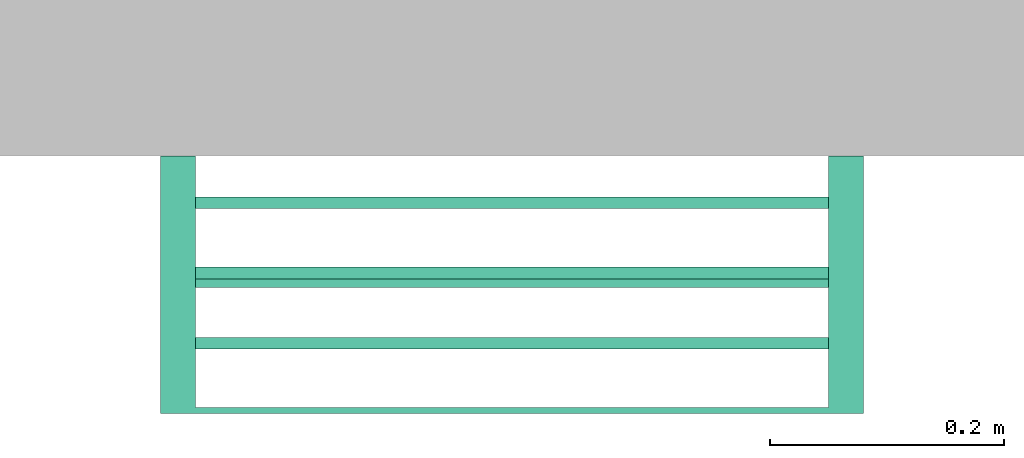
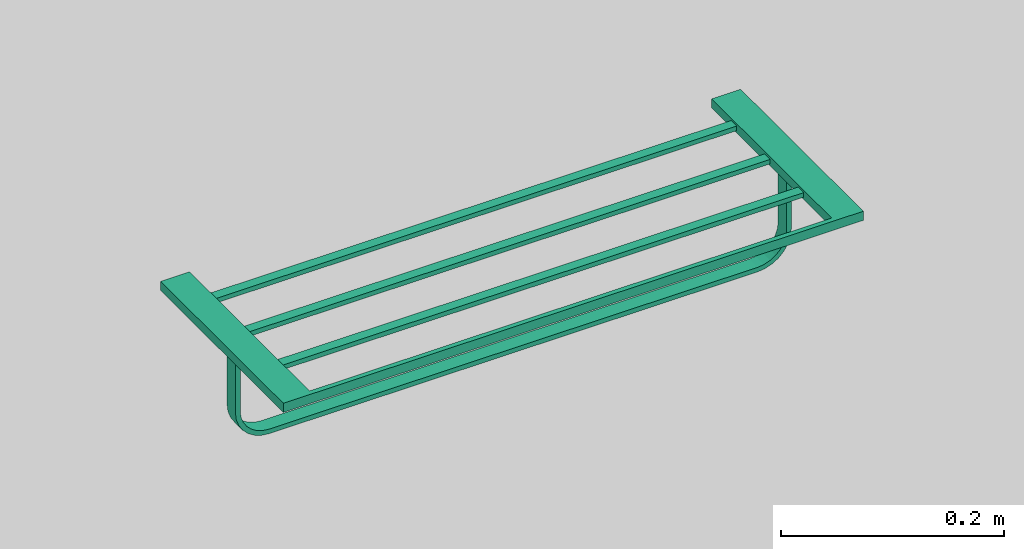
# One storey, part 2 of 2: 1 flow terminal.
"""IFC2X3 building model written with IfcOpenShell, lengths in millimetres."""

import ifcopenshell
import ifcopenshell.guid

model = None  # the IFC model being written
_history = None  # IfcOwnerHistory: only IFC2X3 demands one
_inside = {}  # id of a spatial element -> (the spatial element, [elements in it])
_under = {}  # id of a project, library or spatial element -> (it, [spatial elements below it])
_declared = {}  # id of a project -> (the project, [libraries it declares])
_typed = {}  # id of a type object -> (the type object, [elements of that type])
_made_of = {}  # id of a material, layer set ... -> (it, [elements and type objects made of it])


def new_model(schema):
    """Start an empty IFC model of exactly this schema.

    Asked for "IFC4X3", IfcOpenShell would pick the latest addendum, in which some entities
    have other attributes; the version numbers below select the first issue.
    IFC2X3 requires an IfcOwnerHistory on every rooted entity: one is made here for all.
    """
    global model, _history
    if schema == "IFC4X3":
        model = ifcopenshell.file(schema_version=(4, 3, 0, 0))
    else:
        model = ifcopenshell.file(schema=schema)
    _inside.clear()
    _under.clear()
    _declared.clear()
    _typed.clear()
    _made_of.clear()
    _history = None
    if model.schema == "IFC2X3":
        org = make("IfcOrganization", Name="unknown")
        user = make(
            "IfcPersonAndOrganization",
            ThePerson=make("IfcPerson", FamilyName="unknown"),
            TheOrganization=org,
        )
        app = make(
            "IfcApplication",
            ApplicationDeveloper=org,
            Version="unknown",
            ApplicationFullName="unknown",
            ApplicationIdentifier="unknown",
        )
        _history = make(
            "IfcOwnerHistory",
            OwningUser=user,
            OwningApplication=app,
            ChangeAction="ADDED",
            CreationDate=0,
        )
    return model


def make(cls, **values):
    """One entity of the class cls with the attributes given. An attribute that is None is left unset."""
    return model.create_entity(
        cls, **{name: value for name, value in values.items() if value is not None}
    )


def entity(cls, *values):
    """Any entity or typed value of the class cls, its attributes in the order of the schema. None: left unset."""
    e = model.create_entity(cls)
    for i, value in enumerate(values):
        if value is not None:
            e[i] = value
    return e


def rooted(cls, **values):
    """An entity with a GlobalId (a new one), such as an element, a storey or a relation."""
    return make(cls, GlobalId=ifcopenshell.guid.new(), OwnerHistory=_history, **values)


def si_unit(unit_type, name, prefix=None):
    """IfcSIUnit, for example si_unit("LENGTHUNIT", "METRE", prefix="MILLI")."""
    return make("IfcSIUnit", UnitType=unit_type, Prefix=prefix, Name=name)


def converted_unit(unit_type, name, factor, base, dimensions=None, offset=None):
    """IfcConversionBasedUnit, such as the inch: factor (a typed value) times the base unit."""
    return make(
        "IfcConversionBasedUnit"
        if offset is None
        else "IfcConversionBasedUnitWithOffset",
        ConversionOffset=offset,
        Dimensions=None
        if dimensions is None
        else entity("IfcDimensionalExponents", *dimensions),
        UnitType=unit_type,
        Name=name,
        ConversionFactor=make(
            "IfcMeasureWithUnit", ValueComponent=factor, UnitComponent=base
        ),
    )


def derived_unit(unit_type, elements):
    """IfcDerivedUnit: a product of units, each with its exponent."""
    return make(
        "IfcDerivedUnit",
        Elements=[
            make("IfcDerivedUnitElement", Unit=unit, Exponent=power)
            for unit, power in elements
        ],
        UnitType=unit_type,
    )


def assignment(units):
    """IfcUnitAssignment: the units of a project."""
    return None if units is None else make("IfcUnitAssignment", Units=units)


def point(xyz):
    """IfcCartesianPoint."""
    return None if xyz is None else make("IfcCartesianPoint", Coordinates=xyz)


def direction(xyz):
    """IfcDirection."""
    return None if xyz is None else make("IfcDirection", DirectionRatios=xyz)


def frame(location, z_axis=None, x_axis=None):
    """IfcAxis2Placement3D, a coordinate frame: its origin and axes. An axis left out is left unset."""
    return make(
        "IfcAxis2Placement3D",
        Location=point(location),
        Axis=direction(z_axis),
        RefDirection=direction(x_axis),
    )


def frame_2d(location, x_axis=None):
    """IfcAxis2Placement2D, a coordinate frame in the plane: its origin and x axis."""
    return make(
        "IfcAxis2Placement2D", Location=point(location), RefDirection=direction(x_axis)
    )


def origin():
    """The frame at (0, 0, 0) with its axes left unset."""
    return frame((0.0, 0.0, 0.0))


def place(relative_to, where):
    """IfcLocalPlacement: puts the frame where relative to a parent placement (None: the world)."""
    return make(
        "IfcLocalPlacement", PlacementRelTo=relative_to, RelativePlacement=where
    )


def context(
    kind, dimensions, precision=None, world=None, true_north=None, identifier=None
):
    """IfcGeometricRepresentationContext, for example the 3D "Model" context."""
    return make(
        "IfcGeometricRepresentationContext",
        ContextIdentifier=identifier,
        ContextType=kind,
        CoordinateSpaceDimension=dimensions,
        Precision=precision,
        WorldCoordinateSystem=world,
        TrueNorth=true_north,
    )


def subcontext(parent, identifier, kind, view, scale=None):
    """IfcGeometricRepresentationSubContext, for example "Body" below "Model"."""
    return make(
        "IfcGeometricRepresentationSubContext",
        ContextIdentifier=identifier,
        ContextType=kind,
        ParentContext=parent,
        TargetScale=scale,
        TargetView=view,
    )


def project(units=None, contexts=None):
    """IfcProject with its units and contexts."""
    return rooted(
        "IfcProject",
        Name="project",
        RepresentationContexts=contexts,
        UnitsInContext=assignment(units),
    )


def spatial(cls, under=None, at=None, **own):
    """A site, building, storey or space (cls), placed at a placement, below another one or the project."""
    s = rooted(cls, ObjectPlacement=at, **own)
    if under is not None:
        _under.setdefault(under.id(), (under, []))[1].append(s)
    return s


def polyline(points):
    """IfcPolyline through the points."""
    return make("IfcPolyline", Points=[point(p) for p in points])


def circle_curve(where, radius):
    """IfcCircle in the frame where."""
    return make("IfcCircle", Position=where, Radius=radius)


def parameter(value):
    """IfcParameterValue: where a trimmed curve begins or ends, as a parameter of its basis curve."""
    return model.create_entity("IfcParameterValue", value)


def trimmed(basis, trim1, trim2, sense, master):
    """IfcTrimmedCurve: the piece of a basis curve between two trims."""
    return make(
        "IfcTrimmedCurve",
        BasisCurve=basis,
        Trim1=trim1,
        Trim2=trim2,
        SenseAgreement=sense,
        MasterRepresentation=master,
    )


def segment(curve, same_sense, transition):
    """IfcCompositeCurveSegment."""
    return make(
        "IfcCompositeCurveSegment",
        Transition=transition,
        SameSense=same_sense,
        ParentCurve=curve,
    )


def composite_curve(segments, self_intersect=None):
    """IfcCompositeCurve: segments joined end to end."""
    return make("IfcCompositeCurve", Segments=segments, SelfIntersect=self_intersect)


def profile(cls, at=None, kind="AREA", **sizes):
    """A parametric profile (cls). Its sizes go by their IFC names, for example OverallWidth=200.0."""
    return make(cls, ProfileType=kind, Position=at, **sizes)


def rectangle(**sizes):
    """IfcRectangleProfileDef."""
    return profile("IfcRectangleProfileDef", **sizes)


def outline(outer, holes=None, kind="AREA"):
    """IfcArbitraryClosedProfileDef: a profile drawn as a closed curve; with holes, ...WithVoids."""
    if holes is None:
        return make("IfcArbitraryClosedProfileDef", ProfileType=kind, OuterCurve=outer)
    return make(
        "IfcArbitraryProfileDefWithVoids",
        ProfileType=kind,
        OuterCurve=outer,
        InnerCurves=holes,
    )


def extrude(swept, where, along, depth):
    """IfcExtrudedAreaSolid: the profile swept, set in the frame where, extruded along a direction by depth."""
    return make(
        "IfcExtrudedAreaSolid",
        SweptArea=swept,
        Position=where,
        ExtrudedDirection=direction(along),
        Depth=depth,
    )


def shape(context_of_items, identifier, shape_type, items):
    """IfcShapeRepresentation: the items that make up one representation, for example the "Body"."""
    return make(
        "IfcShapeRepresentation",
        ContextOfItems=context_of_items,
        RepresentationIdentifier=identifier,
        RepresentationType=shape_type,
        Items=items,
    )


def source(mapping_origin, context_of_items, identifier, shape_type, items):
    """IfcRepresentationMap: a shape defined once, which mapped items show again and again."""
    return make(
        "IfcRepresentationMap",
        MappingOrigin=mapping_origin,
        MappedRepresentation=shape(context_of_items, identifier, shape_type, items),
    )


def transform(
    local_origin,
    x_axis=None,
    y_axis=None,
    z_axis=None,
    scale=None,
    scale2=None,
    scale3=None,
    uniform=True,
):
    """IfcCartesianTransformationOperator3D, or its non-uniform kind. x_axis, y_axis, z_axis: its Axis1, 2, 3."""
    if uniform:
        return make(
            "IfcCartesianTransformationOperator3D",
            Axis1=direction(x_axis),
            Axis2=direction(y_axis),
            LocalOrigin=point(local_origin),
            Scale=scale,
            Axis3=direction(z_axis),
        )
    return make(
        "IfcCartesianTransformationOperator3DnonUniform",
        Axis1=direction(x_axis),
        Axis2=direction(y_axis),
        LocalOrigin=point(local_origin),
        Scale=scale,
        Axis3=direction(z_axis),
        Scale2=scale2,
        Scale3=scale3,
    )


def mapped(mapping_source, mapping_target):
    """IfcMappedItem: shows the shape of a source again, moved by a transform."""
    return make(
        "IfcMappedItem", MappingSource=mapping_source, MappingTarget=mapping_target
    )


def material(Name=None, Category=None):
    """IfcMaterial."""
    return make("IfcMaterial", Name=Name, Category=Category)


def made_of(thing, what):
    """Note that an element or type object is made of a material, layer set ...; save() writes the relation."""
    if what is not None:
        _made_of.setdefault(what.id(), (what, []))[1].append(thing)
    return thing


def type_object(cls, material=None, **own):
    """A type object (cls), such as IfcWallType, which elements share."""
    return made_of(rooted(cls, **own), material)


def type_shapes(of_type, sources):
    """Give a type object the sources (RepresentationMaps) that its elements show as mapped items."""
    of_type.RepresentationMaps = sources


def element(
    cls,
    number,
    at=None,
    inside=None,
    cuts=None,
    type_object=None,
    material=None,
    context=None,
    identifier="Body",
    shape_type=None,
    held_by="IfcProductDefinitionShape",
    body=None,
    shapes=None,
    **own,
):
    """One element of the class cls, such as IfcWall. Its Tag is "e" and its number.

    at: its placement. inside: the storey or other place that contains it. cuts: it is an
    opening in that element (IfcRelVoidsElement). A single representation is given by context,
    identifier, shape_type and body (its items); several are given by shapes. held_by: the class
    of the entity that holds the representations. save() writes the other relations.
    """
    e = rooted(cls, Tag="e%d" % number, ObjectPlacement=at, **own)
    if body is not None:
        shapes = [shape(context, identifier, shape_type, body)]
    if shapes is not None:
        e.Representation = make(held_by, Representations=shapes)
    if inside is not None:
        _inside.setdefault(inside.id(), (inside, []))[1].append(e)
    if cuts is not None:
        rooted(
            "IfcRelVoidsElement", RelatingBuildingElement=cuts, RelatedOpeningElement=e
        )
    if type_object is not None:
        _typed.setdefault(type_object.id(), (type_object, []))[1].append(e)
    return made_of(e, material)


def aggregate(whole, parts):
    """IfcRelAggregates: a whole, such as a stair, and the parts it consists of."""
    return rooted("IfcRelAggregates", RelatingObject=whole, RelatedObjects=parts)


def save(model, path):
    """Write the relations noted so far, then the file.

    IfcRelAggregates (storeys below a building ...), IfcRelContainedInSpatialStructure (elements
    in a storey), IfcRelDefinesByType, IfcRelAssociatesMaterial and IfcRelDeclares: one each for
    every whole, place, type object, material and project.
    """
    for whole, parts in _under.values():
        aggregate(whole, parts)
    for where, things in _inside.values():
        rooted(
            "IfcRelContainedInSpatialStructure",
            RelatedElements=things,
            RelatingStructure=where,
        )
    for kind, things in _typed.values():
        rooted("IfcRelDefinesByType", RelatedObjects=things, RelatingType=kind)
    for what, things in _made_of.values():
        rooted("IfcRelAssociatesMaterial", RelatedObjects=things, RelatingMaterial=what)
    for by, libraries in _declared.values():
        rooted("IfcRelDeclares", RelatingContext=by, RelatedDefinitions=libraries)
    model.write(path)


model = new_model("IFC2X3")

# Units and contexts
model_context = context("Model", 3, precision=0.01, world=origin(), true_north=direction((6.12303176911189e-17, 1.0)))
body_context = subcontext(model_context, "Body", "Model", "MODEL_VIEW")
ifc_project = project(units=[si_unit("LENGTHUNIT", "METRE", prefix="MILLI"), si_unit("AREAUNIT", "SQUARE_METRE"), si_unit("VOLUMEUNIT", "CUBIC_METRE"), converted_unit("PLANEANGLEUNIT", "DEGREE", entity("IfcRatioMeasure", 0.0174532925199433), si_unit("PLANEANGLEUNIT", "RADIAN"), dimensions=[0, 0, 0, 0, 0, 0, 0]), si_unit("MASSUNIT", "GRAM", prefix="KILO"), derived_unit("MASSDENSITYUNIT", [(si_unit("MASSUNIT", "GRAM", prefix="KILO"), 1), (si_unit("LENGTHUNIT", "METRE"), -3)]), derived_unit("MOMENTOFINERTIAUNIT", [(si_unit("LENGTHUNIT", "METRE"), 4)]), si_unit("TIMEUNIT", "SECOND"), si_unit("FREQUENCYUNIT", "HERTZ"), si_unit("THERMODYNAMICTEMPERATUREUNIT", "DEGREE_CELSIUS"), derived_unit("THERMALTRANSMITTANCEUNIT", [(si_unit("MASSUNIT", "GRAM", prefix="KILO"), 1), (si_unit("THERMODYNAMICTEMPERATUREUNIT", "KELVIN"), -1), (si_unit("TIMEUNIT", "SECOND"), -3)]), derived_unit("VOLUMETRICFLOWRATEUNIT", [(si_unit("LENGTHUNIT", "METRE"), 3), (si_unit("TIMEUNIT", "SECOND"), -1)]), si_unit("ELECTRICCURRENTUNIT", "AMPERE"), si_unit("ELECTRICVOLTAGEUNIT", "VOLT"), si_unit("POWERUNIT", "WATT"), si_unit("FORCEUNIT", "NEWTON", prefix="KILO"), si_unit("ILLUMINANCEUNIT", "LUX"), si_unit("LUMINOUSFLUXUNIT", "LUMEN"), si_unit("LUMINOUSINTENSITYUNIT", "CANDELA"), derived_unit("USERDEFINED", [(si_unit("MASSUNIT", "GRAM", prefix="KILO"), -1), (si_unit("LENGTHUNIT", "METRE"), -2), (si_unit("TIMEUNIT", "SECOND"), 3), (si_unit("LUMINOUSFLUXUNIT", "LUMEN"), 1)]), derived_unit("LINEARVELOCITYUNIT", [(si_unit("LENGTHUNIT", "METRE"), 1), (si_unit("TIMEUNIT", "SECOND"), -1)]), si_unit("PRESSUREUNIT", "PASCAL"), derived_unit("USERDEFINED", [(si_unit("LENGTHUNIT", "METRE"), -2), (si_unit("MASSUNIT", "GRAM", prefix="KILO"), 1), (si_unit("TIMEUNIT", "SECOND"), -2)]), derived_unit("LINEARFORCEUNIT", [(si_unit("MASSUNIT", "GRAM", prefix="KILO"), 1), (si_unit("LENGTHUNIT", "METRE"), 1), (si_unit("TIMEUNIT", "SECOND"), -2), (si_unit("LENGTHUNIT", "METRE"), -1)]), derived_unit("PLANARFORCEUNIT", [(si_unit("MASSUNIT", "GRAM", prefix="KILO"), 1), (si_unit("LENGTHUNIT", "METRE"), 1), (si_unit("TIMEUNIT", "SECOND"), -2), (si_unit("LENGTHUNIT", "METRE"), -2)])], contexts=[model_context])

# Site, building, storey
site_placement = place(None, origin())
site = spatial("IfcSite", under=ifc_project, at=site_placement, Name="Default", CompositionType="ELEMENT")
building_placement = place(site_placement, origin())
building = spatial("IfcBuilding", under=site, at=building_placement, CompositionType="ELEMENT")
storey_placement = place(building_placement, origin())
storey = spatial("IfcBuildingStorey", under=building, at=storey_placement, Name="Level 1", CompositionType="ELEMENT", Elevation=0.0)

# Flow terminal
ifc_material = material(Name="Black")
distribution_element_type = type_object("IfcDistributionElementType", Name="FFAS1393-908440BF0_REVIT:Acacia E Towel Rack_Matt Black", material=ifc_material)
shared_shape = source(origin(), body_context, "Body", "SweptSolid", [
    extrude(outline(composite_curve([segment(polyline([(-57.5000000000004, -287.499999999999), (12.5000000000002, -287.499999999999)]), True, "CONTINUOUS"), segment(trimmed(circle_curve(frame_2d((12.5000000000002, -252.499999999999), x_axis=(0.0, -1.0)), 35.0), [parameter(4.57999874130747e-13)], [parameter(90.0000000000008)], True, "PARAMETER"), True, "CONTINUOUS"), segment(polyline([(47.5000000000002, -252.499999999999), (47.4999999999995, 252.499999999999)]), True, "CONTINUOUS"), segment(trimmed(circle_curve(frame_2d((12.4999999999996, 252.499999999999), x_axis=(0.0, -1.0)), 35.0), [parameter(90.0000000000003)], [parameter(180.0)], True, "PARAMETER"), True, "CONTINUOUS"), segment(polyline([(12.5, 287.499999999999), (-57.4999999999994, 287.499999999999)]), True, "CONTINUOUS"), segment(polyline([(-57.4999999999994, 287.499999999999), (-57.4999999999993, 282.5)]), True, "CONTINUOUS"), segment(polyline([(-57.4999999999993, 282.5), (12.4999999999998, 282.499999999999)]), True, "CONTINUOUS"), segment(trimmed(circle_curve(frame_2d((12.4999999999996, 252.499999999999), x_axis=(0.0, -1.0)), 30.0), [parameter(89.9999999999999)], [parameter(180.0)], True, "PARAMETER"), False, "CONTINUOUS"), segment(polyline([(42.4999999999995, 252.499999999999), (42.5000000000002, -252.499999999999)]), True, "CONTINUOUS"), segment(trimmed(circle_curve(frame_2d((12.5000000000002, -252.499999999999), x_axis=(0.0, -1.0)), 30.0), [parameter(0.0)], [parameter(90.0000000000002)], True, "PARAMETER"), False, "CONTINUOUS"), segment(polyline([(12.5000000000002, -282.499999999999), (-57.5000000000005, -282.499999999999)]), True, "CONTINUOUS"), segment(polyline([(-57.5000000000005, -282.499999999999), (-57.5000000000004, -287.499999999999)]), True, "CONTINUOUS")], self_intersect=False)), frame((125.0, 197.500000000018, 732.500000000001), z_axis=(0.0, 1.0, 0.0), x_axis=(0.0, 0.0, -1.0)), (0.0, 0.0, 1.0), 15.0),
    extrude(rectangle(XDim=540.0, YDim=10.0000000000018, at=frame_2d((0.0, 1.68753899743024e-14), x_axis=(1.0, 0.0))), frame((125.0, 140.0, 792.5), z_axis=(0.0, 0.0, 1.0), x_axis=(-1.0, 0.0, 0.0)), (0.0, 0.0, 1.0), 5.00000000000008),
    extrude(rectangle(XDim=540.0, YDim=10.0000000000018, at=frame_2d((0.0, 1.68753899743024e-14), x_axis=(1.0, 0.0))), frame((125.0, 200.0, 792.5), z_axis=(0.0, 0.0, 1.0), x_axis=(-1.0, 0.0, 0.0)), (0.0, 0.0, 1.0), 5.00000000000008),
    extrude(rectangle(XDim=540.0, YDim=9.99999999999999, at=frame_2d((0.0, 1.68753899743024e-14), x_axis=(1.0, 0.0))), frame((125.0, 260.0, 792.5), z_axis=(0.0, 0.0, 1.0), x_axis=(-1.0, 0.0, 0.0)), (0.0, 0.0, 1.0), 5.00000000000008),
    extrude(rectangle(XDim=600.0, YDim=5.00000000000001, at=frame_2d((0.0, 3.39728245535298e-14), x_axis=(1.0, 0.0))), frame((125.0, 317.50000000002, 790.0), z_axis=(0.0, 0.0, 1.0), x_axis=(-1.0, 0.0, 0.0)), (0.0, 0.0, 1.0), 10.0000000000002),
    extrude(rectangle(XDim=30.0, YDim=215.0, at=frame_2d((3.37507799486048e-14, 0.0), x_axis=(1.0, 0.0))), frame((410.0, 207.49999999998, 790.0)), (0.0, 0.0, 1.0), 10.0),
    extrude(rectangle(XDim=30.0, YDim=215.0, at=frame_2d((7.99360577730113e-15, 2.8421709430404e-14), x_axis=(1.0, 0.0))), frame((-160.0, 207.499999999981, 790.0), z_axis=(0.0, 0.0, 1.0), x_axis=(-1.0, 0.0, 0.0)), (0.0, 0.0, 1.0), 10.0),
])
type_shapes(distribution_element_type, [shared_shape])
flow_terminal_placement = place(storey_placement, frame((3517.2070684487, 3134.83382976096, 2387.31692579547), z_axis=(0.0, 0.0, 1.0), x_axis=(-1.0, 0.0, 0.0)))
element("IfcFlowTerminal", 1, at=flow_terminal_placement, inside=storey, type_object=distribution_element_type, material=ifc_material, Name="FFAS1393-908440BF0_REVIT:Acacia E Towel Rack_Matt Black", ObjectType="FFAS1393-908440BF0_REVIT:Acacia E Towel Rack_Matt Black", context=body_context, shape_type="MappedRepresentation", body=[
    mapped(shared_shape, transform((0.0, 0.0, 0.0), scale=1.0)),
])

save(model, "model.ifc")
